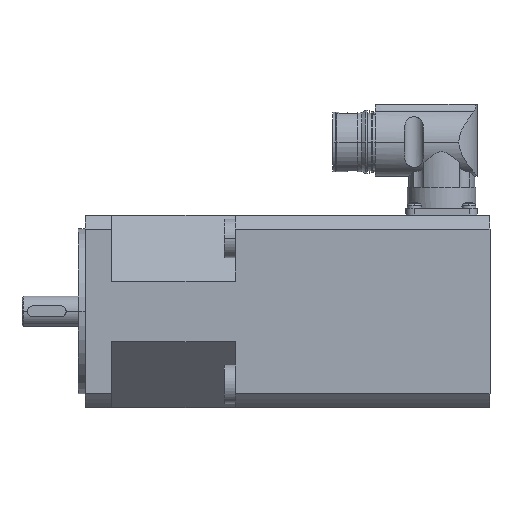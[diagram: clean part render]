
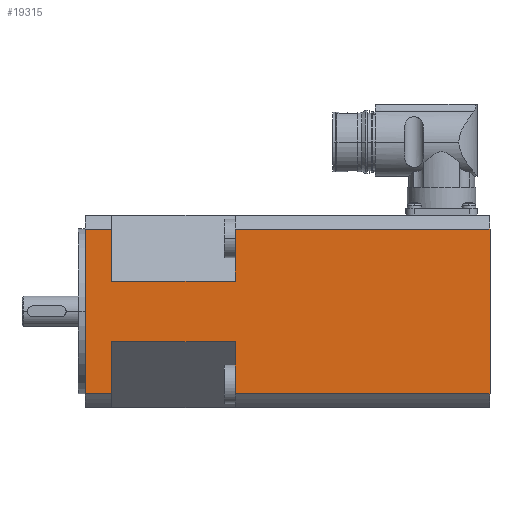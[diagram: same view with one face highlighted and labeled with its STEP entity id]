
A CAD part, front view. The second image highlights one B-rep face of the part: STEP entity #19315.
In plain terms, the highlighted planar face has unit normal (0, -1, 0).
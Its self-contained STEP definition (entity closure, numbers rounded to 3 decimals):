
#18495=CARTESIAN_POINT('',(794.764,477.104,-29.85));
#18496=VERTEX_POINT('',#18495);
#18504=CARTESIAN_POINT('',(794.764,477.104,-10.962));
#18505=VERTEX_POINT('',#18504);
#18506=CARTESIAN_POINT('',(794.764,477.104,-10.962));
#18507=DIRECTION('',(0.,0.,-1.0));
#18508=VECTOR('',#18507,18.888);
#18509=LINE('',#18506,#18508);
#18510=EDGE_CURVE('',#18505,#18496,#18509,.T.);
#18595=CARTESIAN_POINT('',(749.764,477.104,10.962));
#18596=VERTEX_POINT('',#18595);
#18603=CARTESIAN_POINT('',(794.764,477.104,10.962));
#18604=VERTEX_POINT('',#18603);
#18605=CARTESIAN_POINT('',(794.764,477.104,10.962));
#18606=DIRECTION('',(-1.0,0.,0.));
#18607=VECTOR('',#18606,45.);
#18608=LINE('',#18605,#18607);
#18609=EDGE_CURVE('',#18604,#18596,#18608,.T.);
#19169=CARTESIAN_POINT('',(749.764,477.104,-29.85));
#19170=VERTEX_POINT('',#19169);
#19171=CARTESIAN_POINT('',(740.264,477.104,-29.85));
#19172=VERTEX_POINT('',#19171);
#19173=CARTESIAN_POINT('',(749.764,477.104,-29.85));
#19174=DIRECTION('',(-1.0,0.,0.0));
#19175=VECTOR('',#19174,9.5);
#19176=LINE('',#19173,#19175);
#19177=EDGE_CURVE('',#19170,#19172,#19176,.T.);
#19211=CARTESIAN_POINT('',(740.264,477.104,29.85));
#19212=VERTEX_POINT('',#19211);
#19213=CARTESIAN_POINT('',(749.764,477.104,29.85));
#19214=VERTEX_POINT('',#19213);
#19215=CARTESIAN_POINT('',(740.264,477.104,29.85));
#19216=DIRECTION('',(1.0,0.,0.0));
#19217=VECTOR('',#19216,9.5);
#19218=LINE('',#19215,#19217);
#19219=EDGE_CURVE('',#19212,#19214,#19218,.T.);
#19248=CARTESIAN_POINT('',(740.264,477.104,-44.));
#19249=DIRECTION('',(0.,-1.0,0.));
#19250=DIRECTION('',(0.0,0.0,-1.0));
#19251=AXIS2_PLACEMENT_3D('',#19248,#19249,#19250);
#19252=PLANE('',#19251);
#19253=ORIENTED_EDGE('',*,*,#19219,.F.);
#19254=CARTESIAN_POINT('',(740.264,477.104,29.85));
#19255=DIRECTION('',(0.0,0.0,-1.0));
#19256=VECTOR('',#19255,59.699);
#19257=LINE('',#19254,#19256);
#19258=EDGE_CURVE('',#19212,#19172,#19257,.T.);
#19259=ORIENTED_EDGE('',*,*,#19258,.T.);
#19260=ORIENTED_EDGE('',*,*,#19177,.F.);
#19261=CARTESIAN_POINT('',(749.764,477.104,-10.962));
#19262=VERTEX_POINT('',#19261);
#19263=CARTESIAN_POINT('',(749.764,477.104,-29.85));
#19264=DIRECTION('',(0.0,0.0,1.0));
#19265=VECTOR('',#19264,18.888);
#19266=LINE('',#19263,#19265);
#19267=EDGE_CURVE('',#19170,#19262,#19266,.T.);
#19268=ORIENTED_EDGE('',*,*,#19267,.T.);
#19269=CARTESIAN_POINT('',(749.764,477.104,-10.962));
#19270=DIRECTION('',(1.0,0.,0.));
#19271=VECTOR('',#19270,45.);
#19272=LINE('',#19269,#19271);
#19273=EDGE_CURVE('',#19262,#18505,#19272,.T.);
#19274=ORIENTED_EDGE('',*,*,#19273,.T.);
#19275=ORIENTED_EDGE('',*,*,#18510,.T.);
#19276=CARTESIAN_POINT('',(887.264,477.104,-29.85));
#19277=VERTEX_POINT('',#19276);
#19278=CARTESIAN_POINT('',(794.764,477.104,-29.85));
#19279=DIRECTION('',(1.,0.,0.));
#19280=VECTOR('',#19279,92.5);
#19281=LINE('',#19278,#19280);
#19282=EDGE_CURVE('',#18496,#19277,#19281,.T.);
#19283=ORIENTED_EDGE('',*,*,#19282,.T.);
#19284=CARTESIAN_POINT('',(887.264,477.104,29.85));
#19285=VERTEX_POINT('',#19284);
#19286=CARTESIAN_POINT('',(887.264,477.104,-29.85));
#19287=DIRECTION('',(0.0,0.0,1.0));
#19288=VECTOR('',#19287,59.699);
#19289=LINE('',#19286,#19288);
#19290=EDGE_CURVE('',#19277,#19285,#19289,.T.);
#19291=ORIENTED_EDGE('',*,*,#19290,.T.);
#19292=CARTESIAN_POINT('',(794.764,477.104,29.85));
#19293=VERTEX_POINT('',#19292);
#19294=CARTESIAN_POINT('',(887.264,477.104,29.85));
#19295=DIRECTION('',(-1.,0.,0.));
#19296=VECTOR('',#19295,92.5);
#19297=LINE('',#19294,#19296);
#19298=EDGE_CURVE('',#19285,#19293,#19297,.T.);
#19299=ORIENTED_EDGE('',*,*,#19298,.T.);
#19300=CARTESIAN_POINT('',(794.764,477.104,29.85));
#19301=DIRECTION('',(0.0,0.,-1.0));
#19302=VECTOR('',#19301,18.888);
#19303=LINE('',#19300,#19302);
#19304=EDGE_CURVE('',#19293,#18604,#19303,.T.);
#19305=ORIENTED_EDGE('',*,*,#19304,.T.);
#19306=ORIENTED_EDGE('',*,*,#18609,.T.);
#19307=CARTESIAN_POINT('',(749.764,477.104,10.962));
#19308=DIRECTION('',(0.0,0.0,1.0));
#19309=VECTOR('',#19308,18.888);
#19310=LINE('',#19307,#19309);
#19311=EDGE_CURVE('',#18596,#19214,#19310,.T.);
#19312=ORIENTED_EDGE('',*,*,#19311,.T.);
#19313=EDGE_LOOP('',(#19253,#19259,#19260,#19268,#19274,#19275,#19283,#19291,#19299,#19305,#19306,#19312));
#19314=FACE_OUTER_BOUND('',#19313,.T.);
#19315=ADVANCED_FACE('',(#19314),#19252,.T.);
